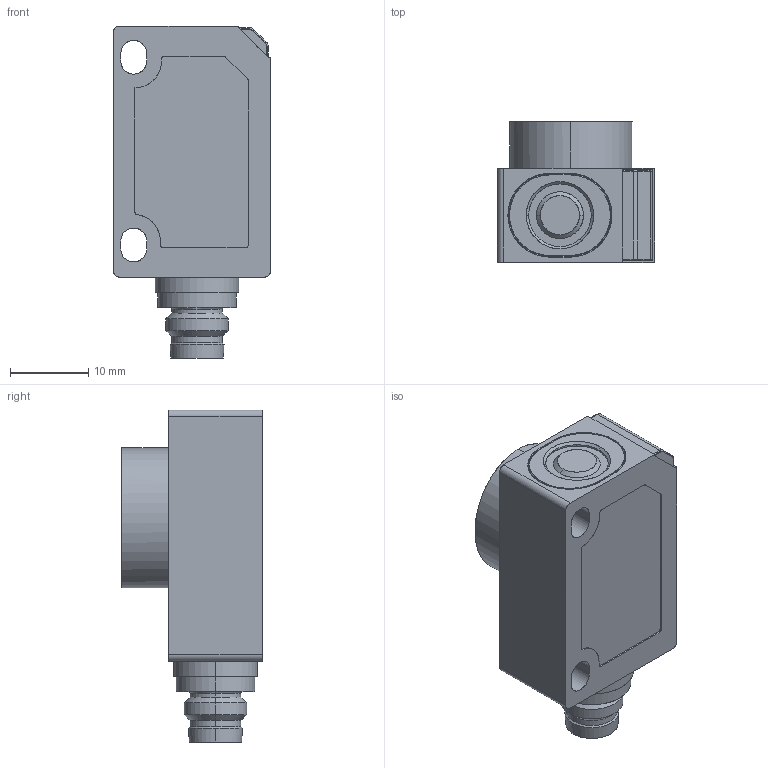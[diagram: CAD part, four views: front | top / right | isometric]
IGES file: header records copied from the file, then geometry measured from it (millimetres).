
Start section: SolidWorks IGES file using analytic representation for surfaces
Global section: file name: Z:\Projekte\Kunststoff-Blechteile\Zeichnungen\Bibliothek Inventor\3D Solids\zws\IGS\zws-70_CX_QS.igs; native system: SolidWorks 2024; preprocessor: SolidWorks 2024; author: Oliver Liedtke; date: 250425.122007; units: millimetre
Bounding box: 20.11 x 18 x 42.45 mm (x, y, z)
Surface area: 3562.6 mm2 (no closed solid volume)
Topology: 0 solids, 0 shells, 153 faces, 1658 edges, 1650 vertices
Faces by surface type: revolution 83, bspline 70
